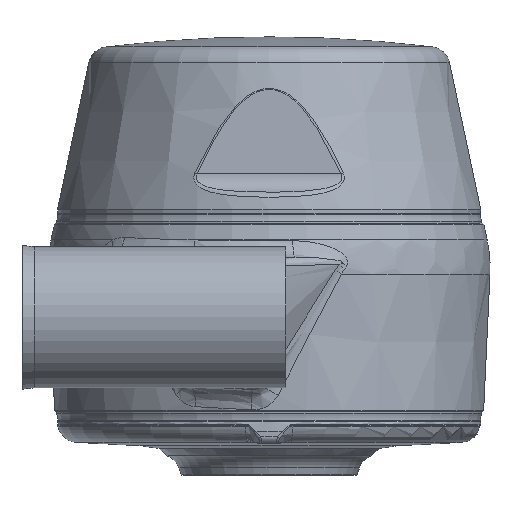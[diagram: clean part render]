
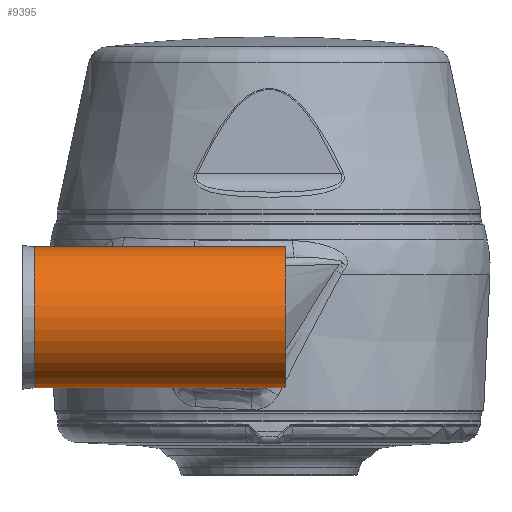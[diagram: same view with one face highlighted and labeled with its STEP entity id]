
A CAD part, front view. The second image highlights one B-rep face of the part: STEP entity #9395.
In plain terms, the highlighted cylindrical face has radius 10.5 mm (diameter 21 mm), a partial arc.
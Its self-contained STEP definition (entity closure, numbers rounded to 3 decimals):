
#397 = CYLINDRICAL_SURFACE ( 'NONE', #13276, 10.5 ) ;
#996 = CARTESIAN_POINT ( 'NONE',  ( 2.5, -52.5, 0. ) ) ;
#1775 = CARTESIAN_POINT ( 'NONE',  ( -35., -52.5, 0. ) ) ;
#1788 = AXIS2_PLACEMENT_3D ( 'NONE', #996, #2148, #6794 ) ;
#1987 = CARTESIAN_POINT ( 'NONE',  ( -36.5, -52.5, 10.5 ) ) ;
#2148 = DIRECTION ( 'NONE',  ( -1., 0., 0. ) ) ;
#2725 = EDGE_CURVE ( 'NONE', #13265, #6157, #2756, .T. ) ;
#2756 = CIRCLE ( 'NONE', #1788, 10.5 ) ;
#3052 = VECTOR ( 'NONE', #4510, 1000. ) ;
#3171 = VECTOR ( 'NONE', #7262, 1000. ) ;
#3727 = EDGE_LOOP ( 'NONE', ( #9311, #11264, #12630, #12683 ) ) ;
#4122 = VERTEX_POINT ( 'NONE', #5237 ) ;
#4510 = DIRECTION ( 'NONE',  ( 1., 0., 0. ) ) ;
#4632 = DIRECTION ( 'NONE',  ( 1., 0., 0. ) ) ;
#5237 = CARTESIAN_POINT ( 'NONE',  ( -35., -52.5, -10.5 ) ) ;
#5803 = CARTESIAN_POINT ( 'NONE',  ( 2.5, -52.5, 10.5 ) ) ;
#6127 = LINE ( 'NONE', #7110, #3171 ) ;
#6157 = VERTEX_POINT ( 'NONE', #5803 ) ;
#6514 = DIRECTION ( 'NONE',  ( 1., 0., 0. ) ) ;
#6794 = DIRECTION ( 'NONE',  ( 0., 0., 1. ) ) ;
#7110 = CARTESIAN_POINT ( 'NONE',  ( -36.5, -52.5, -10.5 ) ) ;
#7262 = DIRECTION ( 'NONE',  ( 1., 0., 0. ) ) ;
#9071 = EDGE_CURVE ( 'NONE', #15014, #6157, #9226, .T. ) ;
#9226 = LINE ( 'NONE', #1987, #3052 ) ;
#9311 = ORIENTED_EDGE ( 'NONE', *, *, #12447, .T. ) ;
#9395 = ADVANCED_FACE ( 'NONE', ( #14258 ), #397, .T. ) ;
#9688 = DIRECTION ( 'NONE',  ( 0., 0., 1. ) ) ;
#9760 = DIRECTION ( 'NONE',  ( 0., 0., -1. ) ) ;
#9938 = AXIS2_PLACEMENT_3D ( 'NONE', #1775, #6514, #9760 ) ;
#10903 = CIRCLE ( 'NONE', #9938, 10.5 ) ;
#11264 = ORIENTED_EDGE ( 'NONE', *, *, #13076, .T. ) ;
#12447 = EDGE_CURVE ( 'NONE', #15014, #4122, #10903, .T. ) ;
#12630 = ORIENTED_EDGE ( 'NONE', *, *, #2725, .T. ) ;
#12683 = ORIENTED_EDGE ( 'NONE', *, *, #9071, .F. ) ;
#13076 = EDGE_CURVE ( 'NONE', #4122, #13265, #6127, .T. ) ;
#13265 = VERTEX_POINT ( 'NONE', #13273 ) ;
#13273 = CARTESIAN_POINT ( 'NONE',  ( 2.5, -52.5, -10.5 ) ) ;
#13276 = AXIS2_PLACEMENT_3D ( 'NONE', #13907, #4632, #9688 ) ;
#13756 = CARTESIAN_POINT ( 'NONE',  ( -35., -52.5, 10.5 ) ) ;
#13907 = CARTESIAN_POINT ( 'NONE',  ( -36.5, -52.5, 0. ) ) ;
#14258 = FACE_OUTER_BOUND ( 'NONE', #3727, .T. ) ;
#15014 = VERTEX_POINT ( 'NONE', #13756 ) ;
